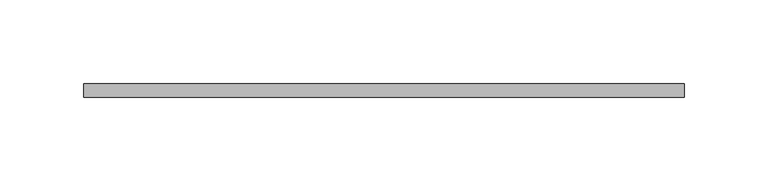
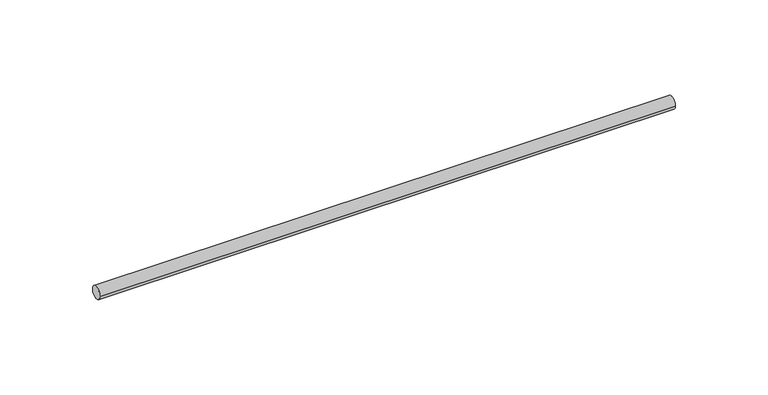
"""IFC4 building model written with IfcOpenShell, lengths in millimetres: valve geometry, Superfix Threaded Rod (used for clamps) : Threaded Rod  Extra  - 1000 mm (used for clamps)."""

from ifc_helpers import new_model, si_unit, point, frame, origin, origin_2d, place, context, project, spatial, circle_curve, trimmed, segment, composite_curve, outline, extrude, source, transform, mapped, element, save


def valve_540cf7b6(model_context):
    return source(origin(), model_context, "Body", "SweptSolid", [
        extrude(outline(composite_curve([segment(trimmed(circle_curve(origin_2d(), 4.0), [point((-4.0, 0.0))], [point((4.0, 0.0))], False, "CARTESIAN"), True, "CONTINUOUS"), segment(trimmed(circle_curve(origin_2d(), 4.0), [point((4.0, 0.0))], [point((-4.0, 0.0))], False, "CARTESIAN"), True, "CONTINUOUS")], self_intersect=False)), frame((-10.0, 0.0, 0.0), z_axis=(1.0, 0.0, 0.0), x_axis=(0.0, 1.0, 0.0)), (0.0, 0.0, 1.0), 358.5002332),
    ])


if __name__ == "__main__":
    model = new_model("IFC4")
    model_context = context("Model", 3, world=origin())
    ifc_project = project(units=[si_unit("LENGTHUNIT", "METRE", prefix="MILLI")], contexts=[model_context])
    site = spatial("IfcSite", under=ifc_project)
    building = spatial("IfcBuilding", under=site)
    placement = place(None, origin())
    valve_shape = valve_540cf7b6(model_context)
    element("IfcValve", 1, ObjectType="Superfix Threaded Rod (used for clamps) : Threaded Rod  Extra  - 1000 mm (used for clamps)", at=placement, inside=building, context=model_context, shape_type="MappedRepresentation", body=[
        mapped(valve_shape, transform((0.0, 0.0, 0.0), x_axis=(1.0, 0.0, 0.0), y_axis=(0.0, 1.0, 0.0), z_axis=(0.0, 0.0, 1.0))),
    ])
    save(model, "model.ifc")
